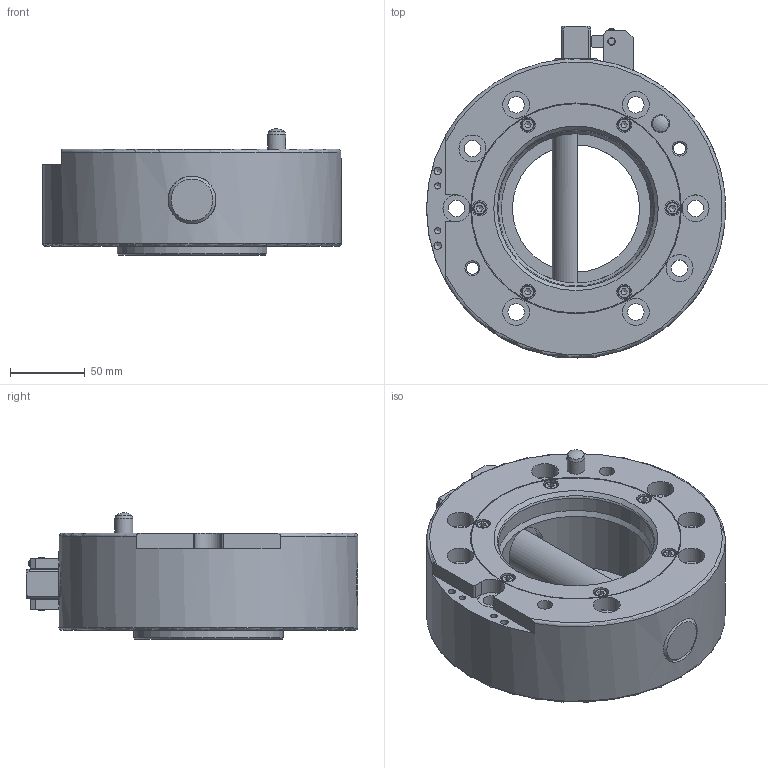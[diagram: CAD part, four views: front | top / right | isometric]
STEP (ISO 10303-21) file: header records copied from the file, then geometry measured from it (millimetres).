
FILE_DESCRIPTION(/* description */ (''),/* implementation_level */ '2;1');
FILE_NAME(/* name */ '\\dc01\daten\CAD\Standard\Daten\3D-Datenbank\SWS\4 - 3D-CAD-Daten SWS 050-160\SWS200\step-Daten\G-SWS200-2OEN.stp',/* time_stamp */ '2015-01-29T09:59:40+01:00',/* author */ ('ysplieth'),/* organization */ ('GRIP GmbH'),/* preprocessor_version */ 'ST-DEVELOPER v15.2',/* originating_system */ 'Autodesk Inventor 2014',/* authorisation */ '');
FILE_SCHEMA (('AUTOMOTIVE_DESIGN { 1 0 10303 214 3 1 1 }'));
Length unit declared in the file: millimetre
Products named in the file (1): Bauteil3
Bounding box: 200 x 222 x 84.43 mm (x, y, z)
Volume: 1514103.6 mm3; surface area: 173767.6 mm2
Topology: 2 solids, 13 shells, 357 faces, 853 edges, 548 vertices
Faces by surface type: plane 165, cylinder 115, cone 55, torus 20, sphere 2
Full cylindrical faces by diameter (mm): 3.242 x2, 3.3 x1, 4 x3, 4.134 x8, 4.5 x2, 5 x11, 5.1 x2, 5.5 x7, 6.647 x2, 7 x2, 8 x4, 8.5 x6, 9 x1, 10 x13, 11 x8, 12 x2, 18 x8, 32 x3, 85 x1, 100 x2, 104 x1, 120 x2, 140 x1, 141 x1, 200 x1
Entity records: 9930 total; most frequent: CARTESIAN_POINT 2338, DIRECTION 1506, ORIENTED_EDGE 1234, AXIS2_PLACEMENT_3D 636, EDGE_CURVE 615, EDGE_LOOP 597, VERTEX_POINT 474, STYLED_ITEM 359
